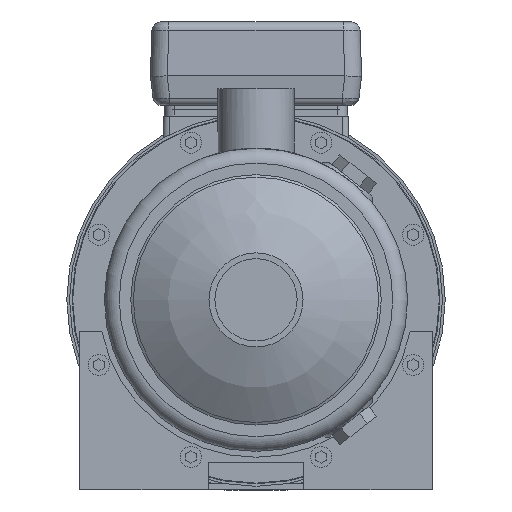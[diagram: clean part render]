
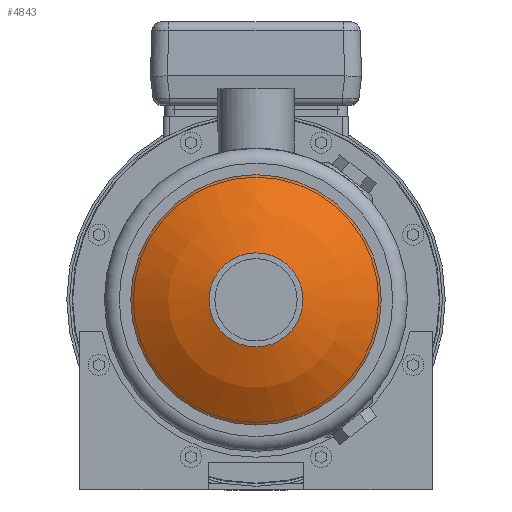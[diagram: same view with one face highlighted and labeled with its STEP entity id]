
A CAD part, left-side view. The second image highlights one B-rep face of the part: STEP entity #4843.
In plain terms, the highlighted spherical face has radius 100 mm.
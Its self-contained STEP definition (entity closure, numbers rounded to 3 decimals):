
#87=SPHERICAL_SURFACE('',#6501,100.);
#1102=ORIENTED_EDGE('',*,*,#2443,.T.);
#1103=ORIENTED_EDGE('',*,*,#2442,.F.);
#2442=EDGE_CURVE('',#3117,#3117,#3579,.T.);
#2443=EDGE_CURVE('',#3118,#3118,#3580,.T.);
#3117=VERTEX_POINT('',#8691);
#3118=VERTEX_POINT('',#8694);
#3579=CIRCLE('',#6500,22.25);
#3580=CIRCLE('',#6502,59.25);
#3802=EDGE_LOOP('',(#1102));
#3803=EDGE_LOOP('',(#1103));
#4240=FACE_BOUND('',#3802,.T.);
#4241=FACE_BOUND('',#3803,.T.);
#4843=ADVANCED_FACE('',(#4240,#4241),#87,.T.);
#6500=AXIS2_PLACEMENT_3D('',#8690,#7103,#7104);
#6501=AXIS2_PLACEMENT_3D('',#8692,#7105,#7106);
#6502=AXIS2_PLACEMENT_3D('',#8693,#7107,#7108);
#7103=DIRECTION('',(-1.,0.,0.));
#7104=DIRECTION('',(0.,0.,1.));
#7105=DIRECTION('',(-1.,0.,0.));
#7106=DIRECTION('',(0.,0.,1.));
#7107=DIRECTION('',(-1.,0.,0.));
#7108=DIRECTION('',(0.,0.,1.));
#8690=CARTESIAN_POINT('',(-115.293,0.,0.));
#8691=CARTESIAN_POINT('',(-115.293,0.,22.25));
#8692=CARTESIAN_POINT('',(-17.8,0.,0.));
#8693=CARTESIAN_POINT('',(-98.357,0.,0.));
#8694=CARTESIAN_POINT('',(-98.357,0.,59.25));
